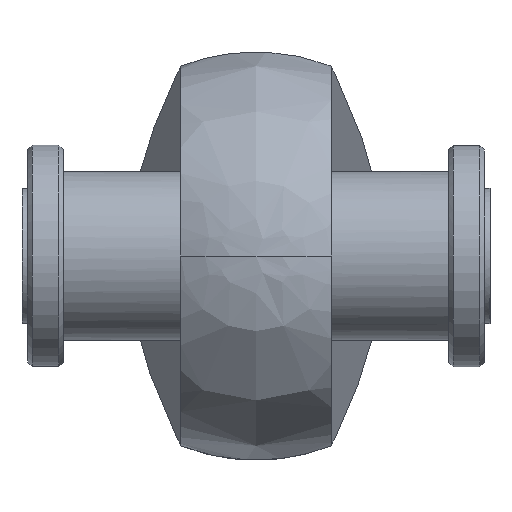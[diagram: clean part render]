
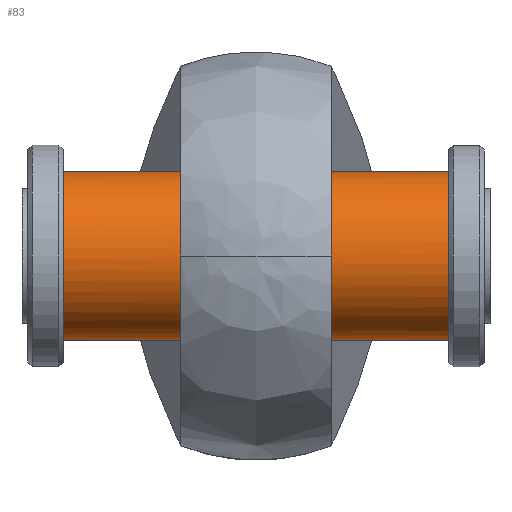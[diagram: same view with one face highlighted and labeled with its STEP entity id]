
A CAD part, left-side view. The second image highlights one B-rep face of the part: STEP entity #83.
In plain terms, the highlighted cylindrical face has radius 9.5 mm (diameter 19 mm), a full revolution.
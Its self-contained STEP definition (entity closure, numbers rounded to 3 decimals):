
#83=ADVANCED_FACE('',(#157),#1214,.T.);
#157=FACE_OUTER_BOUND('',#238,.T.);
#238=EDGE_LOOP('',(#506,#507,#508,#509));
#506=ORIENTED_EDGE('',*,*,#774,.T.);
#507=ORIENTED_EDGE('',*,*,#776,.T.);
#508=ORIENTED_EDGE('',*,*,#775,.T.);
#509=ORIENTED_EDGE('',*,*,#776,.F.);
#774=EDGE_CURVE('',#1128,#1128,#983,.T.);
#775=EDGE_CURVE('',#1129,#1129,#984,.T.);
#776=EDGE_CURVE('',#1128,#1129,#897,.T.);
#897=B_SPLINE_CURVE_WITH_KNOTS('',1,(#2248,#2249),.UNSPECIFIED.,.F.,.F.,
(2,2),(4.462,47.887),.UNSPECIFIED.);
#983=(
BOUNDED_CURVE()
B_SPLINE_CURVE(2,(#2230,#2231,#2232,#2233,#2234,#2235,#2236,#2237,#2238),
 .UNSPECIFIED.,.T.,.F.)
B_SPLINE_CURVE_WITH_KNOTS((3,2,2,2,3),(0.,14.923,29.845,
44.768,59.69),.UNSPECIFIED.)
CURVE()
GEOMETRIC_REPRESENTATION_ITEM()
RATIONAL_B_SPLINE_CURVE((1.,0.707,1.,0.707,1.,0.707,
1.,0.707,1.))
REPRESENTATION_ITEM('')
);
#984=(
BOUNDED_CURVE()
B_SPLINE_CURVE(2,(#2239,#2240,#2241,#2242,#2243,#2244,#2245,#2246,#2247),
 .UNSPECIFIED.,.T.,.F.)
B_SPLINE_CURVE_WITH_KNOTS((3,2,2,2,3),(0.,14.923,29.845,
44.768,59.69),.UNSPECIFIED.)
CURVE()
GEOMETRIC_REPRESENTATION_ITEM()
RATIONAL_B_SPLINE_CURVE((1.,0.707,1.,0.707,1.,0.707,
1.,0.707,1.))
REPRESENTATION_ITEM('')
);
#1128=VERTEX_POINT('',#2182);
#1129=VERTEX_POINT('',#2183);
#1214=CYLINDRICAL_SURFACE('',#1366,9.5);
#1366=AXIS2_PLACEMENT_3D('',#2172,#1412,$);
#1412=DIRECTION('',(0.,-1.,0.));
#2172=CARTESIAN_POINT('',(0.,0.,0.));
#2182=CARTESIAN_POINT('',(9.5,21.712,0.));
#2183=CARTESIAN_POINT('',(9.5,-21.712,0.));
#2230=CARTESIAN_POINT('',(9.5,21.712,0.));
#2231=CARTESIAN_POINT('',(9.5,21.712,9.5));
#2232=CARTESIAN_POINT('',(0.,21.712,9.5));
#2233=CARTESIAN_POINT('',(-9.5,21.712,9.5));
#2234=CARTESIAN_POINT('',(-9.5,21.712,0.));
#2235=CARTESIAN_POINT('',(-9.5,21.712,-9.5));
#2236=CARTESIAN_POINT('',(0.,21.712,-9.5));
#2237=CARTESIAN_POINT('',(9.5,21.712,-9.5));
#2238=CARTESIAN_POINT('',(9.5,21.712,0.));
#2239=CARTESIAN_POINT('',(9.5,-21.712,0.));
#2240=CARTESIAN_POINT('',(9.5,-21.712,-9.5));
#2241=CARTESIAN_POINT('',(0.,-21.712,-9.5));
#2242=CARTESIAN_POINT('',(-9.5,-21.712,-9.5));
#2243=CARTESIAN_POINT('',(-9.5,-21.712,0.));
#2244=CARTESIAN_POINT('',(-9.5,-21.712,9.5));
#2245=CARTESIAN_POINT('',(0.,-21.712,9.5));
#2246=CARTESIAN_POINT('',(9.5,-21.712,9.5));
#2247=CARTESIAN_POINT('',(9.5,-21.712,0.));
#2248=CARTESIAN_POINT('',(9.5,21.712,0.));
#2249=CARTESIAN_POINT('',(9.5,-21.712,0.));
